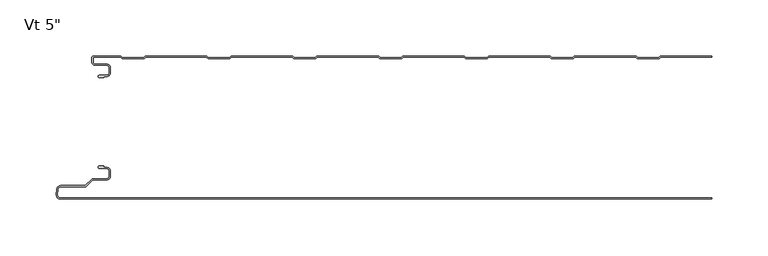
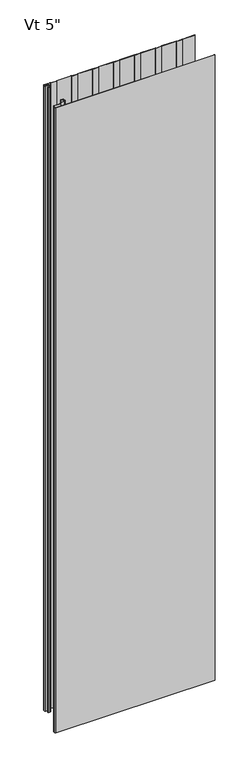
"""IFC4 building model written with IfcOpenShell, lengths in millimetres: plate geometry."""

from ifc_helpers import new_model, si_unit, point, frame, frame_2d, origin, origin_with_axes, place, context, project, spatial, polyline, circle_curve, trimmed, segment, composite_curve, outline, extrude, source, transform, mapped, element, save
from ifc_brep_helpers import plane_surface, cylinder_surface, revolved_surface, advanced_brep


def plate_9c71445d(model_context):
    return source(origin(), model_context, "Body", "SolidModel", [
        advanced_brep(
        [(-270.768691, -17.0015159, 2400.0), (-271.7686883, -18.0015191, 2400.0), (-270.768691, -19.0015105, 2400.0), (-266.7684874, -19.0015105, 2400.0), (-266.7684874, -18.0015159, 2400.0), (-264.0762776, -18.0015159, 2400.0), (-260.7762819, -14.7015202, 2400.0), (-260.7762819, -10.301529, 2400.0), (-264.0762774, -7.0015335, 2400.0), (-274.4962563, -7.0015335, 2400.0), (-276.2662505, -5.2315393, 2400.0), (-276.2662505, -0.9999916, 2400.0), (-251.7659738, -0.9999916, 2400.0), (-250.3803312, -2.2002307, 2400.0), (-231.0051649, -2.2002307, 2400.0), (-229.619532, -1.0, 2400.0), (-175.5661166, -1.0, 2400.0), (-174.1804836, -2.2002307, 2400.0), (-154.8053173, -2.2002307, 2400.0), (-153.4196844, -1.0, 2400.0), (-99.366269, -1.0, 2400.0), (-97.980636, -2.2002307, 2400.0), (-78.6054697, -2.2002307, 2400.0), (-77.2198368, -1.0, 2400.0), (-23.1664214, -1.0, 2400.0), (-21.7807884, -2.2002307, 2400.0), (-2.4056221, -2.2002307, 2400.0), (-1.0199892, -1.0, 2400.0), (53.0334262, -1.0, 2400.0), (54.4190592, -2.2002307, 2400.0), (73.7942255, -2.2002307, 2400.0), (75.1798584, -1.0, 2400.0), (129.2332738, -1.0, 2400.0), (130.6189068, -2.2002307, 2400.0), (149.9940731, -2.2002307, 2400.0), (151.379706, -1.0, 2400.0), (205.4331214, -1.0, 2400.0), (206.8187544, -2.2002307, 2400.0), (226.1939207, -2.2002307, 2400.0), (227.5795536, -1.0, 2400.0), (272.7999998, -1.0, 2400.0), (272.7999998, 0.0, 2400.0), (227.7287048, 0.0, 2400.0), (226.8120879, -0.3417885, 2400.0), (225.8210403, -1.2002307, 2400.0), (207.1916348, -1.2002307, 2400.0), (206.2005872, -0.3417885, 2400.0), (205.2839703, 0.0, 2400.0), (151.5288572, 0.0, 2400.0), (150.6122403, -0.3417885, 2400.0), (149.6211927, -1.2002307, 2400.0), (130.9917872, -1.2002307, 2400.0), (130.0007396, -0.3417885, 2400.0), (129.0841227, 0.0, 2400.0), (75.3290096, 0.0, 2400.0), (74.4123927, -0.3417885, 2400.0), (73.4213451, -1.2002307, 2400.0), (54.7919396, -1.2002307, 2400.0), (53.800892, -0.3417885, 2400.0), (52.8842751, 0.0, 2400.0), (-0.870838, 0.0, 2400.0), (-1.7874549, -0.3417885, 2400.0), (-2.7785025, -1.2002307, 2400.0), (-21.407908, -1.2002307, 2400.0), (-22.3989556, -0.3417885, 2400.0), (-23.3155725, 0.0, 2400.0), (-77.0706856, 0.0, 2400.0), (-77.9873025, -0.3417885, 2400.0), (-78.9783501, -1.2002307, 2400.0), (-97.6077556, -1.2002307, 2400.0), (-98.5988032, -0.3417885, 2400.0), (-99.5154201, 0.0, 2400.0), (-153.2705332, 0.0, 2400.0), (-154.1871501, -0.3417885, 2400.0), (-155.1781977, -1.2002307, 2400.0), (-173.8076032, -1.2002307, 2400.0), (-174.7986508, -0.3417885, 2400.0), (-175.7152677, 0.0, 2400.0), (-229.4703808, 0.0, 2400.0), (-230.3869977, -0.3417885, 2400.0), (-231.3780453, -1.2002307, 2400.0), (-250.0074508, -1.2002307, 2400.0), (-250.9984984, -0.3417885, 2400.0), (-251.9152067, 0.0, 2400.0), (-275.8662543, 8.4e-06, 2400.0), (-277.2662505, -1.3999878, 2400.0), (-277.2662505, -5.2315393, 2400.0), (-274.4962563, -8.0015335, 2400.0), (-264.0762774, -8.0015335, 2400.0), (-261.7762819, -10.301529, 2400.0), (-261.7762819, -14.7015202, 2400.0), (-264.0762776, -17.0015159, 2400.0), (-270.768691, -17.0015159, 0.0), (-264.0762776, -17.0015159, 0.0), (-261.7762819, -14.7015202, 0.0), (-261.7762819, -10.301529, 0.0), (-264.0762774, -8.0015335, 0.0), (-274.4962563, -8.0015335, 0.0), (-277.2662505, -5.2315393, 0.0), (-277.2662505, -1.3999878, 0.0), (-275.8662543, 8.4e-06, 0.0), (-251.9151153, 8.4e-06, 0.0), (-250.9984984, -0.3417885, 0.0), (-250.0074508, -1.2002307, 0.0), (-231.3780453, -1.2002307, 0.0), (-230.3869977, -0.3417885, 0.0), (-229.4703808, 0.0, 0.0), (-175.7152677, 0.0, 0.0), (-174.7986508, -0.3417885, 0.0), (-173.8076032, -1.2002307, 0.0), (-155.1781977, -1.2002307, 0.0), (-154.1871501, -0.3417885, 0.0), (-153.2705332, 0.0, 0.0), (-99.5154201, 0.0, 0.0), (-98.5988032, -0.3417885, 0.0), (-97.6077556, -1.2002307, 0.0), (-78.9783501, -1.2002307, 0.0), (-77.9873025, -0.3417885, 0.0), (-77.0706856, 0.0, 0.0), (-23.3155725, 0.0, 0.0), (-22.3989556, -0.3417885, 0.0), (-21.407908, -1.2002307, 0.0), (-2.7785025, -1.2002307, 0.0), (-1.7874549, -0.3417885, 0.0), (-0.870838, 0.0, 0.0), (52.8842751, 0.0, 0.0), (53.800892, -0.3417885, 0.0), (54.7919396, -1.2002307, 0.0), (73.4213451, -1.2002307, 0.0), (74.4123927, -0.3417885, 0.0), (75.3290096, 0.0, 0.0), (129.0841227, 0.0, 0.0), (130.0007396, -0.3417885, 0.0), (130.9917872, -1.2002307, 0.0), (149.6211927, -1.2002307, 0.0), (150.6122403, -0.3417885, 0.0), (151.5288572, 0.0, 0.0), (205.2839703, 0.0, 0.0), (206.2005872, -0.3417885, 0.0), (207.1916348, -1.2002307, 0.0), (225.8210403, -1.2002307, 0.0), (226.8120879, -0.3417885, 0.0), (227.7287048, 0.0, 0.0), (272.7999998, 0.0, 0.0), (272.7999998, -1.0, 0.0), (227.5795536, -1.0, 0.0), (226.1939207, -2.2002307, 0.0), (206.8187544, -2.2002307, 0.0), (205.4331214, -1.0, 0.0), (151.379706, -1.0, 0.0), (149.9940731, -2.2002307, 0.0), (130.6189068, -2.2002307, 0.0), (129.2332738, -1.0, 0.0), (75.1798584, -1.0, 0.0), (73.7942255, -2.2002307, 0.0), (54.4190592, -2.2002307, 0.0), (53.0334262, -1.0, 0.0), (-1.0199892, -1.0, 0.0), (-2.4056221, -2.2002307, 0.0), (-21.7807884, -2.2002307, 0.0), (-23.1664214, -1.0, 0.0), (-77.2198368, -1.0, 0.0), (-78.6054697, -2.2002307, 0.0), (-97.980636, -2.2002307, 0.0), (-99.366269, -1.0, 0.0), (-153.4196844, -1.0, 0.0), (-154.8053173, -2.2002307, 0.0), (-174.1804836, -2.2002307, 0.0), (-175.5661166, -1.0, 0.0), (-229.619532, -1.0, 0.0), (-231.0051649, -2.2002307, 0.0), (-250.3803312, -2.2002307, 0.0), (-251.7659738, -0.9999916, 0.0), (-276.2662505, -0.9999916, 0.0), (-276.2662505, -5.2315393, 0.0), (-274.4962563, -7.0015335, 0.0), (-264.0762774, -7.0015335, 0.0), (-260.7762819, -10.301529, 0.0), (-260.7762819, -14.7015202, 0.0), (-264.0762776, -18.0015159, 0.0), (-266.7684874, -18.0015159, 0.0), (-266.7684874, -19.0015105, 0.0), (-270.768691, -19.0015105, 0.0), (-271.7686882, -18.0015192, 0.0)],
        [
            (0, 1, circle_curve(frame((-270.768691, -18.0015132, 2400.0), z_axis=(0.0, 0.0, 1.0), x_axis=(1.0, 0.0, 0.0)), 0.9999973)),
            (1, 2, circle_curve(frame((-270.768691, -18.0015133, 2400.0), z_axis=(0.0, 0.0, 1.0), x_axis=(1.0, 0.0, 0.0)), 0.9999972)),
            (2, 3),
            (3, 4),
            (4, 5),
            (5, 6, circle_curve(frame((-264.0762776, -14.7015202, 2400.0), z_axis=(0.0, 0.0, 1.0), x_axis=(1.0, 0.0, 0.0)), 3.2999957)),
            (6, 7),
            (7, 8, circle_curve(frame((-264.0762774, -10.301529, 2400.0), z_axis=(0.0, 0.0, 1.0), x_axis=(1.0, 0.0, 0.0)), 3.2999955)),
            (8, 9),
            (9, 10, circle_curve(frame((-274.4962563, -5.2315393, 2400.0), z_axis=(0.0, 0.0, -1.0), x_axis=(1.0, 0.0, 0.0)), 1.7699942)),
            (10, 11),
            (11, 12),
            (12, 13),
            (13, 14),
            (14, 15),
            (15, 16),
            (16, 17),
            (17, 18),
            (18, 19),
            (19, 20),
            (20, 21),
            (21, 22),
            (22, 23),
            (23, 24),
            (24, 25),
            (25, 26),
            (26, 27),
            (27, 28),
            (28, 29),
            (29, 30),
            (30, 31),
            (31, 32),
            (32, 33),
            (33, 34),
            (34, 35),
            (35, 36),
            (36, 37),
            (37, 38),
            (38, 39),
            (39, 40),
            (40, 41),
            (41, 42),
            (42, 43, circle_curve(frame((227.7287048, -1.3999972, 2400.0), z_axis=(0.0, 0.0, 1.0), x_axis=(1.0, 0.0, 0.0)), 1.3999972)),
            (43, 44),
            (44, 45),
            (45, 46),
            (46, 47, circle_curve(frame((205.2839703, -1.3999972, 2400.0), z_axis=(0.0, 0.0, 1.0), x_axis=(1.0, 0.0, 0.0)), 1.3999972)),
            (47, 48),
            (48, 49, circle_curve(frame((151.5288572, -1.3999972, 2400.0), z_axis=(0.0, 0.0, 1.0), x_axis=(1.0, 0.0, 0.0)), 1.3999972)),
            (49, 50),
            (50, 51),
            (51, 52),
            (52, 53, circle_curve(frame((129.0841227, -1.3999972, 2400.0), z_axis=(0.0, 0.0, 1.0), x_axis=(1.0, 0.0, 0.0)), 1.3999972)),
            (53, 54),
            (54, 55, circle_curve(frame((75.3290096, -1.3999972, 2400.0), z_axis=(0.0, 0.0, 1.0), x_axis=(1.0, 0.0, 0.0)), 1.3999972)),
            (55, 56),
            (56, 57),
            (57, 58),
            (58, 59, circle_curve(frame((52.8842751, -1.3999972, 2400.0), z_axis=(0.0, 0.0, 1.0), x_axis=(1.0, 0.0, 0.0)), 1.3999972)),
            (59, 60),
            (60, 61, circle_curve(frame((-0.870838, -1.3999972, 2400.0), z_axis=(0.0, 0.0, 1.0), x_axis=(1.0, 0.0, 0.0)), 1.3999972)),
            (61, 62),
            (62, 63),
            (63, 64),
            (64, 65, circle_curve(frame((-23.3155725, -1.3999972, 2400.0), z_axis=(0.0, 0.0, 1.0), x_axis=(1.0, 0.0, 0.0)), 1.3999972)),
            (65, 66),
            (66, 67, circle_curve(frame((-77.0706856, -1.3999972, 2400.0), z_axis=(0.0, 0.0, 1.0), x_axis=(1.0, 0.0, 0.0)), 1.3999972)),
            (67, 68),
            (68, 69),
            (69, 70),
            (70, 71, circle_curve(frame((-99.5154201, -1.3999972, 2400.0), z_axis=(0.0, 0.0, 1.0), x_axis=(1.0, 0.0, 0.0)), 1.3999972)),
            (71, 72),
            (72, 73, circle_curve(frame((-153.2705332, -1.3999972, 2400.0), z_axis=(0.0, 0.0, 1.0), x_axis=(1.0, 0.0, 0.0)), 1.3999972)),
            (73, 74),
            (74, 75),
            (75, 76),
            (76, 77, circle_curve(frame((-175.7152677, -1.3999972, 2400.0), z_axis=(0.0, 0.0, 1.0), x_axis=(1.0, 0.0, 0.0)), 1.3999972)),
            (77, 78),
            (78, 79, circle_curve(frame((-229.4703808, -1.3999972, 2400.0), z_axis=(0.0, 0.0, 1.0), x_axis=(1.0, 0.0, 0.0)), 1.3999972)),
            (79, 80),
            (80, 81),
            (81, 82),
            (82, 83, circle_curve(frame((-251.9151153, -1.3999972, 2400.0), z_axis=(0.0, 0.0, 1.0), x_axis=(1.0, 0.0, 0.0)), 1.3999972)),
            (83, 84),
            (84, 85, circle_curve(frame((-275.8662543, -1.3999878, 2400.0), z_axis=(0.0, 0.0, 1.0), x_axis=(1.0, 0.0, 0.0)), 1.3999962)),
            (85, 86),
            (86, 87, circle_curve(frame((-274.4962563, -5.2315393, 2400.0), z_axis=(0.0, 0.0, 1.0), x_axis=(1.0, 0.0, 0.0)), 2.7699942)),
            (87, 88),
            (88, 89, circle_curve(frame((-264.0762774, -10.301529, 2400.0), z_axis=(0.0, 0.0, -1.0), x_axis=(1.0, 0.0, 0.0)), 2.2999955)),
            (89, 90),
            (90, 91, circle_curve(frame((-264.0762776, -14.7015202, 2400.0), z_axis=(0.0, 0.0, -1.0), x_axis=(1.0, 0.0, 0.0)), 2.2999957)),
            (91, 0),
            (92, 93),
            (93, 94, circle_curve(frame((-264.0762776, -14.7015202, 0.0), z_axis=(0.0, 0.0, 1.0), x_axis=(1.0, 0.0, 0.0)), 2.2999957)),
            (94, 95),
            (95, 96, circle_curve(frame((-264.0762774, -10.301529, 0.0), z_axis=(0.0, 0.0, 1.0), x_axis=(1.0, 0.0, 0.0)), 2.2999955)),
            (96, 97),
            (97, 98, circle_curve(frame((-274.4962563, -5.2315393, 0.0), z_axis=(0.0, 0.0, -1.0), x_axis=(1.0, 0.0, 0.0)), 2.7699942)),
            (98, 99),
            (99, 100, circle_curve(frame((-275.8662543, -1.3999878, 0.0), z_axis=(0.0, 0.0, -1.0), x_axis=(1.0, 0.0, 0.0)), 1.3999962)),
            (100, 101),
            (101, 102, circle_curve(frame((-251.9151153, -1.3999972, 0.0), z_axis=(0.0, 0.0, -1.0), x_axis=(1.0, 0.0, 0.0)), 1.3999972)),
            (102, 103),
            (103, 104),
            (104, 105),
            (105, 106, circle_curve(frame((-229.4703808, -1.3999972, 0.0), z_axis=(0.0, 0.0, -1.0), x_axis=(1.0, 0.0, 0.0)), 1.3999972)),
            (106, 107),
            (107, 108, circle_curve(frame((-175.7152677, -1.3999972, 0.0), z_axis=(0.0, 0.0, -1.0), x_axis=(1.0, 0.0, 0.0)), 1.3999972)),
            (108, 109),
            (109, 110),
            (110, 111),
            (111, 112, circle_curve(frame((-153.2705332, -1.3999972, 0.0), z_axis=(0.0, 0.0, -1.0), x_axis=(1.0, 0.0, 0.0)), 1.3999972)),
            (112, 113),
            (113, 114, circle_curve(frame((-99.5154201, -1.3999972, 0.0), z_axis=(0.0, 0.0, -1.0), x_axis=(1.0, 0.0, 0.0)), 1.3999972)),
            (114, 115),
            (115, 116),
            (116, 117),
            (117, 118, circle_curve(frame((-77.0706856, -1.3999972, 0.0), z_axis=(0.0, 0.0, -1.0), x_axis=(1.0, 0.0, 0.0)), 1.3999972)),
            (118, 119),
            (119, 120, circle_curve(frame((-23.3155725, -1.3999972, 0.0), z_axis=(0.0, 0.0, -1.0), x_axis=(1.0, 0.0, 0.0)), 1.3999972)),
            (120, 121),
            (121, 122),
            (122, 123),
            (123, 124, circle_curve(frame((-0.870838, -1.3999972, 0.0), z_axis=(0.0, 0.0, -1.0), x_axis=(1.0, 0.0, 0.0)), 1.3999972)),
            (124, 125),
            (125, 126, circle_curve(frame((52.8842751, -1.3999972, 0.0), z_axis=(0.0, 0.0, -1.0), x_axis=(1.0, 0.0, 0.0)), 1.3999972)),
            (126, 127),
            (127, 128),
            (128, 129),
            (129, 130, circle_curve(frame((75.3290096, -1.3999972, 0.0), z_axis=(0.0, 0.0, -1.0), x_axis=(1.0, 0.0, 0.0)), 1.3999972)),
            (130, 131),
            (131, 132, circle_curve(frame((129.0841227, -1.3999972, 0.0), z_axis=(0.0, 0.0, -1.0), x_axis=(1.0, 0.0, 0.0)), 1.3999972)),
            (132, 133),
            (133, 134),
            (134, 135),
            (135, 136, circle_curve(frame((151.5288572, -1.3999972, 0.0), z_axis=(0.0, 0.0, -1.0), x_axis=(1.0, 0.0, 0.0)), 1.3999972)),
            (136, 137),
            (137, 138, circle_curve(frame((205.2839703, -1.3999972, 0.0), z_axis=(0.0, 0.0, -1.0), x_axis=(1.0, 0.0, 0.0)), 1.3999972)),
            (138, 139),
            (139, 140),
            (140, 141),
            (141, 142, circle_curve(frame((227.7287048, -1.3999972, 0.0), z_axis=(0.0, 0.0, -1.0), x_axis=(1.0, 0.0, 0.0)), 1.3999972)),
            (142, 143),
            (143, 144),
            (144, 145),
            (145, 146),
            (146, 147),
            (147, 148),
            (148, 149),
            (149, 150),
            (150, 151),
            (151, 152),
            (152, 153),
            (153, 154),
            (154, 155),
            (155, 156),
            (156, 157),
            (157, 158),
            (158, 159),
            (159, 160),
            (160, 161),
            (161, 162),
            (162, 163),
            (163, 164),
            (164, 165),
            (165, 166),
            (166, 167),
            (167, 168),
            (168, 169),
            (169, 170),
            (170, 171),
            (171, 172),
            (172, 173),
            (173, 174),
            (174, 175, circle_curve(frame((-274.4962563, -5.2315393, 0.0), z_axis=(0.0, 0.0, 1.0), x_axis=(1.0, 0.0, 0.0)), 1.7699942)),
            (175, 176),
            (176, 177, circle_curve(frame((-264.0762774, -10.301529, 0.0), z_axis=(0.0, 0.0, -1.0), x_axis=(1.0, 0.0, 0.0)), 3.2999955)),
            (177, 178),
            (178, 179, circle_curve(frame((-264.0762776, -14.7015202, 0.0), z_axis=(0.0, 0.0, -1.0), x_axis=(1.0, 0.0, 0.0)), 3.2999957)),
            (179, 180),
            (180, 181),
            (181, 182),
            (182, 183, circle_curve(frame((-270.768691, -18.0015133, 0.0), z_axis=(0.0, 0.0, -1.0), x_axis=(1.0, 0.0, 0.0)), 0.9999972)),
            (183, 92, circle_curve(frame((-270.768691, -18.0015132, 0.0), z_axis=(0.0, 0.0, -1.0), x_axis=(1.0, 0.0, 0.0)), 0.9999973)),
            (91, 93),
            (92, 0),
            (90, 94),
            (89, 95),
            (88, 96),
            (87, 97),
            (86, 98),
            (85, 99),
            (84, 100),
            (83, 101),
            (10, 174),
            (173, 11),
            (9, 175),
            (8, 176),
            (7, 177),
            (6, 178),
            (5, 179),
            (4, 180),
            (3, 181),
            (2, 182),
            (1, 183),
            (40, 144),
            (143, 41),
            (82, 102),
            (81, 103),
            (80, 104),
            (79, 105),
            (78, 106),
            (77, 107),
            (76, 108),
            (75, 109),
            (74, 110),
            (73, 111),
            (72, 112),
            (71, 113),
            (70, 114),
            (69, 115),
            (68, 116),
            (67, 117),
            (66, 118),
            (65, 119),
            (64, 120),
            (63, 121),
            (62, 122),
            (61, 123),
            (60, 124),
            (59, 125),
            (58, 126),
            (57, 127),
            (56, 128),
            (55, 129),
            (54, 130),
            (53, 131),
            (52, 132),
            (51, 133),
            (50, 134),
            (49, 135),
            (48, 136),
            (47, 137),
            (46, 138),
            (45, 139),
            (44, 140),
            (43, 141),
            (42, 142),
            (39, 145),
            (38, 146),
            (37, 147),
            (36, 148),
            (35, 149),
            (34, 150),
            (33, 151),
            (32, 152),
            (31, 153),
            (30, 154),
            (29, 155),
            (28, 156),
            (27, 157),
            (26, 158),
            (25, 159),
            (24, 160),
            (23, 161),
            (22, 162),
            (21, 163),
            (20, 164),
            (19, 165),
            (18, 166),
            (17, 167),
            (16, 168),
            (15, 169),
            (14, 170),
            (13, 171),
            (12, 172),
        ],
        [
            plane_surface(frame((184.4000002, 0.0, 2400.0), z_axis=(0.0, 0.0, 1.0), x_axis=(0.0, 1.0, 0.0))),
            plane_surface(frame((184.4000002, 0.0, 0.0), z_axis=(0.0, 0.0, -1.0), x_axis=(0.0, 1.0, 0.0))),
            plane_surface(frame((-270.768691, -17.0015159, 2400.0), z_axis=(0.0, 1.0, 0.0), x_axis=(0.0, 0.0, -1.0))),
            revolved_surface(polyline([(-261.7762819, -14.7015202, 0.0), (-261.7762819, -14.7015202, 2400.0)]), (-264.0762776, -14.7015202, 2400.0), (0.0, 0.0, -1.0)),
            plane_surface(frame((-261.7762819, -14.7015202, 2400.0), z_axis=(-1.0, 0.0, 0.0), x_axis=(0.0, 0.0, -1.0))),
            revolved_surface(polyline([(-261.77628189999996, -10.301529, 0.0), (-261.77628189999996, -10.301529, 2400.0)]), (-264.0762774, -10.301529, 2400.0), (0.0, 0.0, -1.0)),
            plane_surface(frame((-264.0762774, -8.0015335, 2400.0), z_axis=(0.0, -1.0, 0.0), x_axis=(0.0, 0.0, -1.0))),
            cylinder_surface(frame((-274.4962563, -5.2315393, 2400.0), z_axis=(0.0, 0.0, 1.0), x_axis=(1.0, 0.0, 0.0)), 2.7699942),
            plane_surface(frame((-277.2662505, -5.2315393, 2400.0), z_axis=(-1.0, 0.0, 0.0), x_axis=(0.0, 0.0, -1.0))),
            cylinder_surface(frame((-275.8662543, -1.3999878, 2400.0), z_axis=(0.0, 0.0, 1.0), x_axis=(1.0, 0.0, 0.0)), 1.3999962),
            plane_surface(frame((-275.8662543, 8.4e-06, 2400.0), z_axis=(0.0, 1.0, 0.0), x_axis=(0.0, 0.0, -1.0))),
            plane_surface(frame((-276.2662505, -0.9999916, 2400.0), z_axis=(1.0, 0.0, 0.0), x_axis=(0.0, 0.0, -1.0))),
            revolved_surface(polyline([(-272.72626210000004, -5.2315393, 0.0), (-272.72626210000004, -5.2315393, 2400.0)]), (-274.4962563, -5.2315393, 2400.0), (0.0, 0.0, -1.0)),
            plane_surface(frame((-274.4962563, -7.0015335, 2400.0), z_axis=(0.0, 1.0, 0.0), x_axis=(0.0, 0.0, -1.0))),
            cylinder_surface(frame((-264.0762774, -10.301529, 2400.0), z_axis=(0.0, 0.0, 1.0), x_axis=(1.0, 0.0, 0.0)), 3.2999955),
            plane_surface(frame((-260.7762819, -10.301529, 2400.0), z_axis=(1.0, 0.0, 0.0), x_axis=(0.0, 0.0, -1.0))),
            cylinder_surface(frame((-264.0762776, -14.7015202, 2400.0), z_axis=(0.0, 0.0, 1.0), x_axis=(1.0, 0.0, 0.0)), 3.2999957),
            plane_surface(frame((-264.0762776, -18.0015159, 2400.0), z_axis=(0.0, -1.0, 0.0), x_axis=(0.0, 0.0, -1.0))),
            plane_surface(frame((-266.7684874, -18.0015159, 2400.0), z_axis=(1.0, 0.0, 0.0), x_axis=(0.0, 0.0, -1.0))),
            plane_surface(frame((-266.7684874, -19.0015105, 2400.0), z_axis=(0.0, -1.0, 0.0), x_axis=(0.0, 0.0, -1.0))),
            cylinder_surface(frame((-270.768691, -18.0015133, 2400.0), z_axis=(0.0, 0.0, 1.0), x_axis=(1.0, 0.0, 0.0)), 0.9999972),
            cylinder_surface(frame((-270.768691, -18.0015132, 2400.0), z_axis=(0.0, 0.0, 1.0), x_axis=(1.0, 0.0, 0.0)), 0.9999973),
            plane_surface(frame((272.7999998, -137.0, 2400.0), z_axis=(1.0, 0.0, 0.0), x_axis=(0.0, 0.0, -1.0))),
            cylinder_surface(frame((-251.9151153, -1.3999972, 2400.0), z_axis=(0.0, 0.0, 1.0), x_axis=(1.0, 0.0, 0.0)), 1.3999972),
            plane_surface(frame((-250.9984984, -0.3417885, 2400.0), z_axis=(0.6547276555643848, 0.7558648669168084, 0.0), x_axis=(0.0, 0.0, -1.0))),
            plane_surface(frame((-240.6927481, -1.2002307, 2400.0), z_axis=(0.0, 1.0, 0.0), x_axis=(0.0, 0.0, -1.0))),
            plane_surface(frame((-231.3780453, -1.2002307, 2400.0), z_axis=(-0.6547276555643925, 0.7558648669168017, 0.0), x_axis=(0.0, 0.0, -1.0))),
            cylinder_surface(frame((-229.4703808, -1.3999972, 2400.0), z_axis=(0.0, 0.0, 1.0), x_axis=(1.0, 0.0, 0.0)), 1.3999972),
            plane_surface(frame((-229.4703808, 0.0, 2400.0), z_axis=(0.0, 1.0, 0.0), x_axis=(0.0, 0.0, -1.0))),
            cylinder_surface(frame((-175.7152677, -1.3999972, 2400.0), z_axis=(0.0, 0.0, 1.0), x_axis=(1.0, 0.0, 0.0)), 1.3999972),
            plane_surface(frame((-174.7986508, -0.3417885, 2400.0), z_axis=(0.6547276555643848, 0.7558648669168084, 0.0), x_axis=(0.0, 0.0, -1.0))),
            plane_surface(frame((-164.4929005, -1.2002307, 2400.0), z_axis=(0.0, 1.0, 0.0), x_axis=(0.0, 0.0, -1.0))),
            plane_surface(frame((-155.1781977, -1.2002307, 2400.0), z_axis=(-0.6547276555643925, 0.7558648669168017, 0.0), x_axis=(0.0, 0.0, -1.0))),
            cylinder_surface(frame((-153.2705332, -1.3999972, 2400.0), z_axis=(0.0, 0.0, 1.0), x_axis=(1.0, 0.0, 0.0)), 1.3999972),
            plane_surface(frame((-153.2705332, 0.0, 2400.0), z_axis=(0.0, 1.0, 0.0), x_axis=(0.0, 0.0, -1.0))),
            cylinder_surface(frame((-99.5154201, -1.3999972, 2400.0), z_axis=(0.0, 0.0, 1.0), x_axis=(1.0, 0.0, 0.0)), 1.3999972),
            plane_surface(frame((-98.5988032, -0.3417885, 2400.0), z_axis=(0.6547276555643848, 0.7558648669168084, 0.0), x_axis=(0.0, 0.0, -1.0))),
            plane_surface(frame((-88.2930529, -1.2002307, 2400.0), z_axis=(0.0, 1.0, 0.0), x_axis=(0.0, 0.0, -1.0))),
            plane_surface(frame((-78.9783501, -1.2002307, 2400.0), z_axis=(-0.6547276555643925, 0.7558648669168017, 0.0), x_axis=(0.0, 0.0, -1.0))),
            cylinder_surface(frame((-77.0706856, -1.3999972, 2400.0), z_axis=(0.0, 0.0, 1.0), x_axis=(1.0, 0.0, 0.0)), 1.3999972),
            plane_surface(frame((-77.0706856, 0.0, 2400.0), z_axis=(0.0, 1.0, 0.0), x_axis=(0.0, 0.0, -1.0))),
            cylinder_surface(frame((-23.3155725, -1.3999972, 2400.0), z_axis=(0.0, 0.0, 1.0), x_axis=(1.0, 0.0, 0.0)), 1.3999972),
            plane_surface(frame((-22.3989556, -0.3417885, 2400.0), z_axis=(0.6547276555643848, 0.7558648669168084, 0.0), x_axis=(0.0, 0.0, -1.0))),
            plane_surface(frame((-12.0932053, -1.2002307, 2400.0), z_axis=(0.0, 1.0, 0.0), x_axis=(0.0, 0.0, -1.0))),
            plane_surface(frame((-2.7785025, -1.2002307, 2400.0), z_axis=(-0.6547276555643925, 0.7558648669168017, 0.0), x_axis=(0.0, 0.0, -1.0))),
            cylinder_surface(frame((-0.870838, -1.3999972, 2400.0), z_axis=(0.0, 0.0, 1.0), x_axis=(1.0, 0.0, 0.0)), 1.3999972),
            plane_surface(frame((-0.870838, 0.0, 2400.0), z_axis=(0.0, 1.0, 0.0), x_axis=(0.0, 0.0, -1.0))),
            cylinder_surface(frame((52.8842751, -1.3999972, 2400.0), z_axis=(0.0, 0.0, 1.0), x_axis=(1.0, 0.0, 0.0)), 1.3999972),
            plane_surface(frame((53.800892, -0.3417885, 2400.0), z_axis=(0.6547276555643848, 0.7558648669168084, 0.0), x_axis=(0.0, 0.0, -1.0))),
            plane_surface(frame((64.1066423, -1.2002307, 2400.0), z_axis=(0.0, 1.0, 0.0), x_axis=(0.0, 0.0, -1.0))),
            plane_surface(frame((73.4213451, -1.2002307, 2400.0), z_axis=(-0.6547276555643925, 0.7558648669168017, 0.0), x_axis=(0.0, 0.0, -1.0))),
            cylinder_surface(frame((75.3290096, -1.3999972, 2400.0), z_axis=(0.0, 0.0, 1.0), x_axis=(1.0, 0.0, 0.0)), 1.3999972),
            plane_surface(frame((75.3290096, 0.0, 2400.0), z_axis=(0.0, 1.0, 0.0), x_axis=(0.0, 0.0, -1.0))),
            cylinder_surface(frame((129.0841227, -1.3999972, 2400.0), z_axis=(0.0, 0.0, 1.0), x_axis=(1.0, 0.0, 0.0)), 1.3999972),
            plane_surface(frame((130.0007396, -0.3417885, 2400.0), z_axis=(0.6547276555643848, 0.7558648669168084, 0.0), x_axis=(0.0, 0.0, -1.0))),
            plane_surface(frame((140.3064899, -1.2002307, 2400.0), z_axis=(0.0, 1.0, 0.0), x_axis=(0.0, 0.0, -1.0))),
            plane_surface(frame((149.6211927, -1.2002307, 2400.0), z_axis=(-0.6547276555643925, 0.7558648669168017, 0.0), x_axis=(0.0, 0.0, -1.0))),
            cylinder_surface(frame((151.5288572, -1.3999972, 2400.0), z_axis=(0.0, 0.0, 1.0), x_axis=(1.0, 0.0, 0.0)), 1.3999972),
            plane_surface(frame((151.5288572, 0.0, 2400.0), z_axis=(0.0, 1.0, 0.0), x_axis=(0.0, 0.0, -1.0))),
            cylinder_surface(frame((205.2839703, -1.3999972, 2400.0), z_axis=(0.0, 0.0, 1.0), x_axis=(1.0, 0.0, 0.0)), 1.3999972),
            plane_surface(frame((206.2005872, -0.3417885, 2400.0), z_axis=(0.6547276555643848, 0.7558648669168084, 0.0), x_axis=(0.0, 0.0, -1.0))),
            plane_surface(frame((216.5063375, -1.2002307, 2400.0), z_axis=(0.0, 1.0, 0.0), x_axis=(0.0, 0.0, -1.0))),
            plane_surface(frame((225.8210403, -1.2002307, 2400.0), z_axis=(-0.6547276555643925, 0.7558648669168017, 0.0), x_axis=(0.0, 0.0, -1.0))),
            cylinder_surface(frame((227.7287048, -1.3999972, 2400.0), z_axis=(0.0, 0.0, 1.0), x_axis=(1.0, 0.0, 0.0)), 1.3999972),
            plane_surface(frame((227.7287048, 0.0, 2400.0), z_axis=(0.0, 1.0, 0.0), x_axis=(0.0, 0.0, -1.0))),
            plane_surface(frame((281.632969, -1.0, 2400.0), z_axis=(0.0, -1.0, 0.0), x_axis=(0.0, 0.0, -1.0))),
            plane_surface(frame((227.5795536, -1.0, 2400.0), z_axis=(0.6547276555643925, -0.7558648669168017, 0.0), x_axis=(0.0, 0.0, -1.0))),
            plane_surface(frame((226.1939207, -2.2002307, 2400.0), z_axis=(0.0, -1.0, 0.0), x_axis=(0.0, 0.0, -1.0))),
            plane_surface(frame((206.8187544, -2.2002307, 2400.0), z_axis=(-0.6547276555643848, -0.7558648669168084, 0.0), x_axis=(0.0, 0.0, -1.0))),
            plane_surface(frame((205.4331214, -1.0, 2400.0), z_axis=(0.0, -1.0, 0.0), x_axis=(0.0, 0.0, -1.0))),
            plane_surface(frame((151.379706, -1.0, 2400.0), z_axis=(0.6547276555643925, -0.7558648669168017, 0.0), x_axis=(0.0, 0.0, -1.0))),
            plane_surface(frame((149.9940731, -2.2002307, 2400.0), z_axis=(0.0, -1.0, 0.0), x_axis=(0.0, 0.0, -1.0))),
            plane_surface(frame((130.6189068, -2.2002307, 2400.0), z_axis=(-0.6547276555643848, -0.7558648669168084, 0.0), x_axis=(0.0, 0.0, -1.0))),
            plane_surface(frame((129.2332738, -1.0, 2400.0), z_axis=(0.0, -1.0, 0.0), x_axis=(0.0, 0.0, -1.0))),
            plane_surface(frame((75.1798584, -1.0, 2400.0), z_axis=(0.6547276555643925, -0.7558648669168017, 0.0), x_axis=(0.0, 0.0, -1.0))),
            plane_surface(frame((73.7942255, -2.2002307, 2400.0), z_axis=(0.0, -1.0, 0.0), x_axis=(0.0, 0.0, -1.0))),
            plane_surface(frame((54.4190592, -2.2002307, 2400.0), z_axis=(-0.6547276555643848, -0.7558648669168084, 0.0), x_axis=(0.0, 0.0, -1.0))),
            plane_surface(frame((53.0334262, -1.0, 2400.0), z_axis=(0.0, -1.0, 0.0), x_axis=(0.0, 0.0, -1.0))),
            plane_surface(frame((-1.0199892, -1.0, 2400.0), z_axis=(0.6547276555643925, -0.7558648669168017, 0.0), x_axis=(0.0, 0.0, -1.0))),
            plane_surface(frame((-2.4056221, -2.2002307, 2400.0), z_axis=(0.0, -1.0, 0.0), x_axis=(0.0, 0.0, -1.0))),
            plane_surface(frame((-21.7807884, -2.2002307, 2400.0), z_axis=(-0.6547276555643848, -0.7558648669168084, 0.0), x_axis=(0.0, 0.0, -1.0))),
            plane_surface(frame((-23.1664214, -1.0, 2400.0), z_axis=(0.0, -1.0, 0.0), x_axis=(0.0, 0.0, -1.0))),
            plane_surface(frame((-77.2198368, -1.0, 2400.0), z_axis=(0.6547276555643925, -0.7558648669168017, 0.0), x_axis=(0.0, 0.0, -1.0))),
            plane_surface(frame((-78.6054697, -2.2002307, 2400.0), z_axis=(0.0, -1.0, 0.0), x_axis=(0.0, 0.0, -1.0))),
            plane_surface(frame((-97.980636, -2.2002307, 2400.0), z_axis=(-0.6547276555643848, -0.7558648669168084, 0.0), x_axis=(0.0, 0.0, -1.0))),
            plane_surface(frame((-99.366269, -1.0, 2400.0), z_axis=(0.0, -1.0, 0.0), x_axis=(0.0, 0.0, -1.0))),
            plane_surface(frame((-153.4196844, -1.0, 2400.0), z_axis=(0.6547276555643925, -0.7558648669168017, 0.0), x_axis=(0.0, 0.0, -1.0))),
            plane_surface(frame((-154.8053173, -2.2002307, 2400.0), z_axis=(0.0, -1.0, 0.0), x_axis=(0.0, 0.0, -1.0))),
            plane_surface(frame((-174.1804836, -2.2002307, 2400.0), z_axis=(-0.6547276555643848, -0.7558648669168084, 0.0), x_axis=(0.0, 0.0, -1.0))),
            plane_surface(frame((-175.5661166, -1.0, 2400.0), z_axis=(0.0, -1.0, 0.0), x_axis=(0.0, 0.0, -1.0))),
            plane_surface(frame((-229.619532, -1.0, 2400.0), z_axis=(0.6547276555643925, -0.7558648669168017, 0.0), x_axis=(0.0, 0.0, -1.0))),
            plane_surface(frame((-231.0051649, -2.2002307, 2400.0), z_axis=(0.0, -1.0, 0.0), x_axis=(0.0, 0.0, -1.0))),
            plane_surface(frame((-250.3803312, -2.2002307, 2400.0), z_axis=(-0.6547276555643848, -0.7558648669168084, 0.0), x_axis=(0.0, 0.0, -1.0))),
            plane_surface(frame((-251.7659738, -0.9999916, 2400.0), z_axis=(0.0, -1.0, 0.0), x_axis=(0.0, 0.0, -1.0))),
        ],
        [
            (0, [[1, 2, 3, 4, 5, 6, 7, 8, 9, 10, 11, 12, 13, 14, 15, 16, 17, 18, 19, 20, 21, 22, 23, 24, 25, 26, 27, 28, 29, 30, 31, 32, 33, 34, 35, 36, 37, 38, 39, 40, 41, 42, 43, 44, 45, 46, 47, 48, 49, 50, 51, 52, 53, 54, 55, 56, 57, 58, 59, 60, 61, 62, 63, 64, 65, 66, 67, 68, 69, 70, 71, 72, 73, 74, 75, 76, 77, 78, 79, 80, 81, 82, 83, 84, 85, 86, 87, 88, 89, 90, 91, 92]]),
            (1, [[93, 94, 95, 96, 97, 98, 99, 100, 101, 102, 103, 104, 105, 106, 107, 108, 109, 110, 111, 112, 113, 114, 115, 116, 117, 118, 119, 120, 121, 122, 123, 124, 125, 126, 127, 128, 129, 130, 131, 132, 133, 134, 135, 136, 137, 138, 139, 140, 141, 142, 143, 144, 145, 146, 147, 148, 149, 150, 151, 152, 153, 154, 155, 156, 157, 158, 159, 160, 161, 162, 163, 164, 165, 166, 167, 168, 169, 170, 171, 172, 173, 174, 175, 176, 177, 178, 179, 180, 181, 182, 183, 184]]),
            (2, [[185, -93, 186, -92]]),
            (3, [[187, -94, -185, -91]]),
            (4, [[188, -95, -187, -90]]),
            (5, [[189, -96, -188, -89]]),
            (6, [[190, -97, -189, -88]]),
            (7, [[191, -98, -190, -87]]),
            (8, [[192, -99, -191, -86]]),
            (9, [[193, -100, -192, -85]]),
            (10, [[194, -101, -193, -84]]),
            (11, [[195, -174, 196, -11]]),
            (12, [[197, -175, -195, -10]]),
            (13, [[198, -176, -197, -9]]),
            (14, [[199, -177, -198, -8]]),
            (15, [[200, -178, -199, -7]]),
            (16, [[201, -179, -200, -6]]),
            (17, [[202, -180, -201, -5]]),
            (18, [[203, -181, -202, -4]]),
            (19, [[204, -182, -203, -3]]),
            (20, [[205, -183, -204, -2]]),
            (21, [[-186, -184, -205, -1]]),
            (22, [[206, -144, 207, -41]]),
            (23, [[208, -102, -194, -83]]),
            (24, [[209, -103, -208, -82]]),
            (25, [[210, -104, -209, -81]]),
            (26, [[211, -105, -210, -80]]),
            (27, [[212, -106, -211, -79]]),
            (28, [[213, -107, -212, -78]]),
            (29, [[214, -108, -213, -77]]),
            (30, [[215, -109, -214, -76]]),
            (31, [[216, -110, -215, -75]]),
            (32, [[217, -111, -216, -74]]),
            (33, [[218, -112, -217, -73]]),
            (34, [[219, -113, -218, -72]]),
            (35, [[220, -114, -219, -71]]),
            (36, [[221, -115, -220, -70]]),
            (37, [[222, -116, -221, -69]]),
            (38, [[223, -117, -222, -68]]),
            (39, [[224, -118, -223, -67]]),
            (40, [[225, -119, -224, -66]]),
            (41, [[226, -120, -225, -65]]),
            (42, [[227, -121, -226, -64]]),
            (43, [[228, -122, -227, -63]]),
            (44, [[229, -123, -228, -62]]),
            (45, [[230, -124, -229, -61]]),
            (46, [[231, -125, -230, -60]]),
            (47, [[232, -126, -231, -59]]),
            (48, [[233, -127, -232, -58]]),
            (49, [[234, -128, -233, -57]]),
            (50, [[235, -129, -234, -56]]),
            (51, [[236, -130, -235, -55]]),
            (52, [[237, -131, -236, -54]]),
            (53, [[238, -132, -237, -53]]),
            (54, [[239, -133, -238, -52]]),
            (55, [[240, -134, -239, -51]]),
            (56, [[241, -135, -240, -50]]),
            (57, [[242, -136, -241, -49]]),
            (58, [[243, -137, -242, -48]]),
            (59, [[244, -138, -243, -47]]),
            (60, [[245, -139, -244, -46]]),
            (61, [[246, -140, -245, -45]]),
            (62, [[247, -141, -246, -44]]),
            (63, [[248, -142, -247, -43]]),
            (64, [[-42, -207, -143, -248]]),
            (65, [[-145, -206, -40, 249]]),
            (66, [[250, -146, -249, -39]]),
            (67, [[251, -147, -250, -38]]),
            (68, [[252, -148, -251, -37]]),
            (69, [[253, -149, -252, -36]]),
            (70, [[254, -150, -253, -35]]),
            (71, [[255, -151, -254, -34]]),
            (72, [[256, -152, -255, -33]]),
            (73, [[257, -153, -256, -32]]),
            (74, [[258, -154, -257, -31]]),
            (75, [[259, -155, -258, -30]]),
            (76, [[260, -156, -259, -29]]),
            (77, [[261, -157, -260, -28]]),
            (78, [[262, -158, -261, -27]]),
            (79, [[263, -159, -262, -26]]),
            (80, [[264, -160, -263, -25]]),
            (81, [[265, -161, -264, -24]]),
            (82, [[266, -162, -265, -23]]),
            (83, [[267, -163, -266, -22]]),
            (84, [[268, -164, -267, -21]]),
            (85, [[269, -165, -268, -20]]),
            (86, [[270, -166, -269, -19]]),
            (87, [[271, -167, -270, -18]]),
            (88, [[272, -168, -271, -17]]),
            (89, [[273, -169, -272, -16]]),
            (90, [[274, -170, -273, -15]]),
            (91, [[275, -171, -274, -14]]),
            (92, [[276, -172, -275, -13]]),
            (93, [[-196, -173, -276, -12]]),
        ],
    ),
        extrude(outline(composite_curve([segment(polyline([(-308.808759, -123.1184578), (-308.3690674, -118.0944437)]), True, "CONTINUOUS"), segment(trimmed(circle_curve(frame_2d((-304.7198391, -118.7052448)), 3.6999926), [point((-308.3690674, -118.0944437))], [point((-304.7198391, -115.0052522))], False, "CARTESIAN"), True, "CONTINUOUS"), segment(polyline([(-304.7198391, -115.0052522), (-283.5773995, -115.0052522)]), True, "CONTINUOUS"), segment(trimmed(circle_curve(frame_2d((-283.5773995, -113.7052548)), 1.2999974), [point((-283.5773995, -115.0052522))], [point((-282.6581626, -114.6244918))], True, "CARTESIAN"), True, "CONTINUOUS"), segment(polyline([(-282.6581626, -114.6244918), (-277.8297451, -109.7960743)]), True, "CONTINUOUS"), segment(trimmed(circle_curve(frame_2d((-275.9205606, -111.7052588)), 2.6999946), [point((-277.8297451, -109.7960743))], [point((-275.9205606, -109.0052642))], False, "CARTESIAN"), True, "CONTINUOUS"), segment(polyline([(-275.9205606, -109.0052642), (-264.1096715, -109.0052642)]), True, "CONTINUOUS"), segment(trimmed(circle_curve(frame_2d((-264.1096715, -106.6552689)), 2.3499953), [point((-264.1096715, -109.0052642))], [point((-261.7596762, -106.6552689))], True, "CARTESIAN"), True, "CONTINUOUS"), segment(polyline([(-261.7596762, -106.6552689), (-261.7596762, -102.2552777)]), True, "CONTINUOUS"), segment(trimmed(circle_curve(frame_2d((-264.1096715, -102.2552777)), 2.3499953), [point((-261.7596762, -102.2552777))], [point((-264.1096715, -99.9052824))], True, "CARTESIAN"), True, "CONTINUOUS"), segment(polyline([(-264.1096715, -99.9052824), (-270.6289777, -99.9052824)]), True, "CONTINUOUS"), segment(trimmed(circle_curve(frame_2d((-270.5686906, -98.7068002)), 1.1999976), [point((-270.6289777, -99.9052824))], [point((-271.7683, -98.6762782))], False, "CARTESIAN"), True, "CONTINUOUS"), segment(trimmed(circle_curve(frame_2d((-270.5686906, -98.7068002)), 1.1999976), [point((-271.7683, -98.6762782))], [point((-270.567176, -97.5068035))], False, "CARTESIAN"), True, "CONTINUOUS"), segment(polyline([(-270.567176, -97.5068035), (-266.8087826, -97.5068035), (-266.8087826, -98.9052824), (-264.1096715, -98.9052824)]), True, "CONTINUOUS"), segment(trimmed(circle_curve(frame_2d((-264.1096715, -102.2552777)), 3.3499953), [point((-264.1096715, -98.9052824))], [point((-260.7596762, -102.2552777))], False, "CARTESIAN"), True, "CONTINUOUS"), segment(polyline([(-260.7596762, -102.2552777), (-260.7596762, -106.6552689)]), True, "CONTINUOUS"), segment(trimmed(circle_curve(frame_2d((-264.1096715, -106.6552689)), 3.3499953), [point((-260.7596762, -106.6552689))], [point((-264.1096715, -110.0052642))], False, "CARTESIAN"), True, "CONTINUOUS"), segment(polyline([(-264.1096715, -110.0052642), (-275.9205606, -110.0052642)]), True, "CONTINUOUS"), segment(trimmed(circle_curve(frame_2d((-275.9205606, -111.7052588)), 1.6999946), [point((-275.9205606, -110.0052642))], [point((-277.1226383, -110.5031811))], True, "CARTESIAN"), True, "CONTINUOUS"), segment(polyline([(-277.1226383, -110.5031811), (-282.6247094, -116.0052522), (-304.7198391, -116.0052522)]), True, "CONTINUOUS"), segment(trimmed(circle_curve(frame_2d((-304.7198391, -118.7052448)), 2.6999926), [point((-304.7198391, -116.0052522))], [point((-307.3765707, -118.2238542))], True, "CARTESIAN"), True, "CONTINUOUS"), segment(polyline([(-307.3765707, -118.2238542), (-307.8125697, -123.2056751)]), True, "CONTINUOUS"), segment(trimmed(circle_curve(frame_2d((-305.2521175, -123.4297607)), 2.5702393), [point((-307.8125697, -123.2056751))], [point((-305.3094458, -125.9993606))], True, "CARTESIAN"), True, "CONTINUOUS"), segment(polyline([(-305.3094458, -125.9993606), (272.7999998, -125.9993606), (272.7999998, -126.9995979), (-305.2521124, -126.9999675)]), True, "CONTINUOUS"), segment(trimmed(circle_curve(frame_2d((-305.2521147, -123.4297282)), 3.5702393), [point((-305.2521124, -126.9999675))], [point((-308.808759, -123.1184578))], False, "CARTESIAN"), True, "CONTINUOUS")], self_intersect=False)), origin_with_axes(), (0.0, 0.0, 1.0), 2400.0),
    ])


if __name__ == "__main__":
    model = new_model("IFC4")
    model_context = context("Model", 3, world=origin())
    ifc_project = project(units=[si_unit("LENGTHUNIT", "METRE", prefix="MILLI")], contexts=[model_context])
    site = spatial("IfcSite", under=ifc_project)
    building = spatial("IfcBuilding", under=site)
    placement = place(None, origin())
    plate_shape = plate_9c71445d(model_context)
    element("IfcPlate", 1, ObjectType="KIP-36-Karrier-KP-R19-CP-Vt-FL3-8in_SL : Vt 5\"", at=placement, inside=building, context=model_context, shape_type="MappedRepresentation", body=[
        mapped(plate_shape, transform((0.0, 0.0, 0.0), x_axis=(1.0, 0.0, 0.0), y_axis=(0.0, 1.0, 0.0), z_axis=(0.0, 0.0, 1.0))),
    ])
    save(model, "model.ifc")
